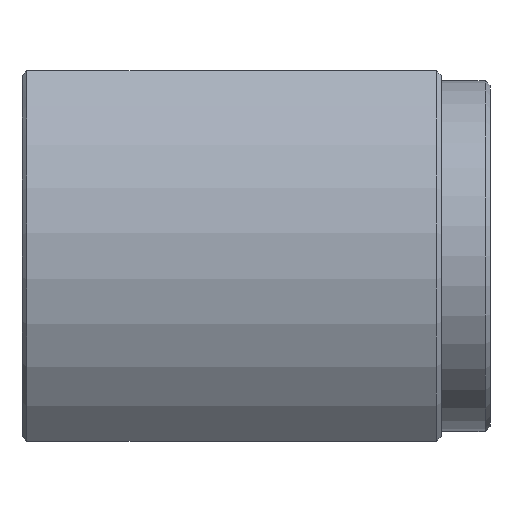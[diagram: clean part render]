
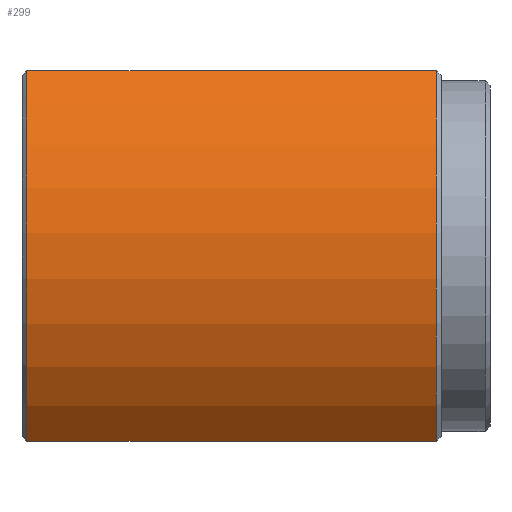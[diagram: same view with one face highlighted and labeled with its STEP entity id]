
A CAD part, front view. The second image highlights one B-rep face of the part: STEP entity #299.
In plain terms, the highlighted cylindrical face has radius 27 mm (diameter 54 mm), a partial arc.
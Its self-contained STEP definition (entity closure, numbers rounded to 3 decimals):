
#128=CARTESIAN_POINT('',(0.5,-19.183,-19.0));
#129=VERTEX_POINT('',#128);
#137=CARTESIAN_POINT('',(0.5,-19.183,19.0));
#138=VERTEX_POINT('',#137);
#139=CARTESIAN_POINT('',(0.5,0.0,0.0));
#140=DIRECTION('',(-1.0,0.0,0.0));
#141=DIRECTION('',(0.0,-1.0,0.0));
#142=AXIS2_PLACEMENT_3D('',#139,#140,#141);
#143=CIRCLE('',#142,27.0);
#144=EDGE_CURVE('',#129,#138,#143,.T.);
#250=CARTESIAN_POINT('',(42.5,-19.183,19.0));
#251=VERTEX_POINT('',#250);
#252=CARTESIAN_POINT('',(0.5,-19.183,19.0));
#253=DIRECTION('',(1.0,0.0,0.0));
#254=VECTOR('',#253,42.0);
#255=LINE('',#252,#254);
#256=EDGE_CURVE('',#138,#251,#255,.T.);
#275=CARTESIAN_POINT('',(0.0,0.0,0.0));
#276=DIRECTION('',(1.0,0.0,0.0));
#277=DIRECTION('',(0.0,1.0,0.0));
#278=AXIS2_PLACEMENT_3D('',#275,#276,#277);
#279=CYLINDRICAL_SURFACE('',#278,27.0);
#280=ORIENTED_EDGE('',*,*,#144,.F.);
#281=CARTESIAN_POINT('',(42.5,-19.183,-19.0));
#282=VERTEX_POINT('',#281);
#283=CARTESIAN_POINT('',(0.5,-19.183,-19.0));
#284=DIRECTION('',(1.0,0.0,0.0));
#285=VECTOR('',#284,42.0);
#286=LINE('',#283,#285);
#287=EDGE_CURVE('',#129,#282,#286,.T.);
#288=ORIENTED_EDGE('',*,*,#287,.T.);
#289=CARTESIAN_POINT('',(42.5,0.0,0.0));
#290=DIRECTION('',(1.0,0.0,0.0));
#291=DIRECTION('',(0.0,-1.0,0.0));
#292=AXIS2_PLACEMENT_3D('',#289,#290,#291);
#293=CIRCLE('',#292,27.0);
#294=EDGE_CURVE('',#251,#282,#293,.T.);
#295=ORIENTED_EDGE('',*,*,#294,.F.);
#296=ORIENTED_EDGE('',*,*,#256,.F.);
#297=EDGE_LOOP('',(#280,#288,#295,#296));
#298=FACE_OUTER_BOUND('',#297,.T.);
#299=ADVANCED_FACE('',(#298),#279,.T.);
